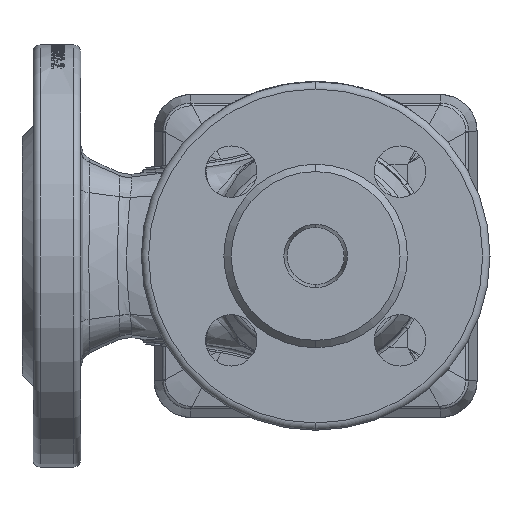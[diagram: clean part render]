
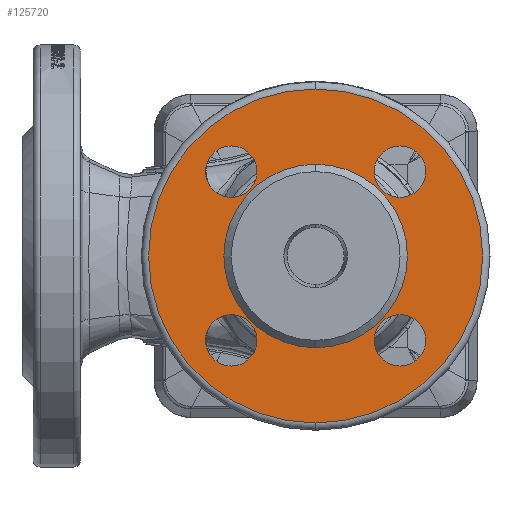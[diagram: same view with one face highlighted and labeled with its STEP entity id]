
A CAD part, front view. The second image highlights one B-rep face of the part: STEP entity #125720.
In plain terms, the highlighted planar face has unit normal (0, -1, 0).
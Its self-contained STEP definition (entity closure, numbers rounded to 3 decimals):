
#562 = ORIENTED_EDGE ( 'NONE', *, *, #67928, .F. ) ;
#5720 = FACE_BOUND ( 'NONE', #49623, .T. ) ;
#6377 = CARTESIAN_POINT ( 'NONE',  ( 0., -88., 0. ) ) ;
#7731 = DIRECTION ( 'NONE',  ( 0., 0., 1. ) ) ;
#8164 = VERTEX_POINT ( 'NONE', #65702 ) ;
#9935 = VERTEX_POINT ( 'NONE', #32512 ) ;
#10148 = DIRECTION ( 'NONE',  ( 0., 1., 0. ) ) ;
#13227 = AXIS2_PLACEMENT_3D ( 'NONE', #6377, #54382, #19938 ) ;
#13236 = FACE_BOUND ( 'NONE', #70846, .T. ) ;
#15306 = CARTESIAN_POINT ( 'NONE',  ( 0., -88., 45.5 ) ) ;
#19018 = EDGE_CURVE ( 'NONE', #79097, #62117, #24489, .T. ) ;
#19938 = DIRECTION ( 'NONE',  ( 0., 0., 1. ) ) ;
#20479 = CARTESIAN_POINT ( 'NONE',  ( 22.981, -88., -22.981 ) ) ;
#20723 = CIRCLE ( 'NONE', #29268, 7. ) ;
#22384 = VERTEX_POINT ( 'NONE', #146252 ) ;
#23696 = CIRCLE ( 'NONE', #87204, 25. ) ;
#24489 = CIRCLE ( 'NONE', #149319, 7. ) ;
#27652 = EDGE_CURVE ( 'NONE', #104122, #113669, #103274, .T. ) ;
#27854 = CARTESIAN_POINT ( 'NONE',  ( 22.981, -88., -22.981 ) ) ;
#29268 = AXIS2_PLACEMENT_3D ( 'NONE', #57278, #93776, #105283 ) ;
#29834 = EDGE_CURVE ( 'NONE', #8164, #51954, #144595, .T. ) ;
#31135 = ORIENTED_EDGE ( 'NONE', *, *, #19018, .F. ) ;
#31748 = DIRECTION ( 'NONE',  ( 0., 1., 0. ) ) ;
#32512 = CARTESIAN_POINT ( 'NONE',  ( -22.981, -88., -29.981 ) ) ;
#36735 = AXIS2_PLACEMENT_3D ( 'NONE', #37743, #121729, #133269 ) ;
#37743 = CARTESIAN_POINT ( 'NONE',  ( -22.981, -88., 22.981 ) ) ;
#39818 = DIRECTION ( 'NONE',  ( 0., -1., 0. ) ) ;
#41561 = EDGE_LOOP ( 'NONE', ( #45663, #76208 ) ) ;
#41999 = CARTESIAN_POINT ( 'NONE',  ( 0., -88., 0. ) ) ;
#43422 = DIRECTION ( 'NONE',  ( 0., -1., 0. ) ) ;
#44207 = DIRECTION ( 'NONE',  ( 0., -1., 0. ) ) ;
#44933 = FACE_BOUND ( 'NONE', #41561, .T. ) ;
#45663 = ORIENTED_EDGE ( 'NONE', *, *, #71716, .F. ) ;
#47316 = EDGE_CURVE ( 'NONE', #51954, #8164, #153011, .T. ) ;
#47494 = CIRCLE ( 'NONE', #134407, 7. ) ;
#49448 = CARTESIAN_POINT ( 'NONE',  ( -22.981, -88., -15.981 ) ) ;
#49623 = EDGE_LOOP ( 'NONE', ( #95669, #140060 ) ) ;
#49994 = ORIENTED_EDGE ( 'NONE', *, *, #89191, .F. ) ;
#51954 = VERTEX_POINT ( 'NONE', #93755 ) ;
#53036 = ORIENTED_EDGE ( 'NONE', *, *, #101964, .T. ) ;
#54382 = DIRECTION ( 'NONE',  ( 0., 1., 0. ) ) ;
#56707 = DIRECTION ( 'NONE',  ( 0., 0., -1. ) ) ;
#57278 = CARTESIAN_POINT ( 'NONE',  ( -22.981, -88., -22.981 ) ) ;
#57576 = EDGE_LOOP ( 'NONE', ( #49994, #80733 ) ) ;
#61739 = FACE_BOUND ( 'NONE', #122216, .T. ) ;
#62117 = VERTEX_POINT ( 'NONE', #86879 ) ;
#62881 = CARTESIAN_POINT ( 'NONE',  ( 22.981, -88., 22.981 ) ) ;
#63392 = CIRCLE ( 'NONE', #109513, 7. ) ;
#64479 = VERTEX_POINT ( 'NONE', #145266 ) ;
#65702 = CARTESIAN_POINT ( 'NONE',  ( 22.981, -88., -29.981 ) ) ;
#67928 = EDGE_CURVE ( 'NONE', #62117, #79097, #102382, .T. ) ;
#70846 = EDGE_LOOP ( 'NONE', ( #31135, #562 ) ) ;
#71176 = PLANE ( 'NONE',  #124523 ) ;
#71716 = EDGE_CURVE ( 'NONE', #9935, #140798, #20723, .T. ) ;
#74807 = CIRCLE ( 'NONE', #13227, 45.5 ) ;
#75158 = VERTEX_POINT ( 'NONE', #15306 ) ;
#76208 = ORIENTED_EDGE ( 'NONE', *, *, #133684, .F. ) ;
#78011 = DIRECTION ( 'NONE',  ( 0., -1., 0. ) ) ;
#78163 = DIRECTION ( 'NONE',  ( 0., 0., -1. ) ) ;
#79097 = VERTEX_POINT ( 'NONE', #114553 ) ;
#79698 = CARTESIAN_POINT ( 'NONE',  ( -22.981, -88., -22.981 ) ) ;
#80733 = ORIENTED_EDGE ( 'NONE', *, *, #131244, .F. ) ;
#81615 = CARTESIAN_POINT ( 'NONE',  ( -25., -88., 0. ) ) ;
#81629 = CARTESIAN_POINT ( 'NONE',  ( 0., -88., 0. ) ) ;
#86006 = FACE_BOUND ( 'NONE', #98021, .T. ) ;
#86336 = CARTESIAN_POINT ( 'NONE',  ( 0., -88., -25. ) ) ;
#86879 = CARTESIAN_POINT ( 'NONE',  ( -22.981, -88., 29.981 ) ) ;
#87204 = AXIS2_PLACEMENT_3D ( 'NONE', #81629, #10148, #116557 ) ;
#87290 = AXIS2_PLACEMENT_3D ( 'NONE', #20479, #43422, #127426 ) ;
#87653 = AXIS2_PLACEMENT_3D ( 'NONE', #62881, #145280, #123346 ) ;
#88401 = ORIENTED_EDGE ( 'NONE', *, *, #29834, .F. ) ;
#89191 = EDGE_CURVE ( 'NONE', #75158, #22384, #146845, .T. ) ;
#89378 = CARTESIAN_POINT ( 'NONE',  ( 0., -88., 25. ) ) ;
#89453 = CARTESIAN_POINT ( 'NONE',  ( 22.981, -88., 22.981 ) ) ;
#91656 = DIRECTION ( 'NONE',  ( 0., -1., 0. ) ) ;
#93755 = CARTESIAN_POINT ( 'NONE',  ( 22.981, -88., -15.981 ) ) ;
#93776 = DIRECTION ( 'NONE',  ( 0., -1., 0. ) ) ;
#95669 = ORIENTED_EDGE ( 'NONE', *, *, #124329, .F. ) ;
#98021 = EDGE_LOOP ( 'NONE', ( #53036, #137773 ) ) ;
#98810 = DIRECTION ( 'NONE',  ( 0., 0., -1. ) ) ;
#100833 = ORIENTED_EDGE ( 'NONE', *, *, #47316, .F. ) ;
#101964 = EDGE_CURVE ( 'NONE', #113669, #104122, #23696, .T. ) ;
#102382 = CIRCLE ( 'NONE', #36735, 7. ) ;
#103274 = CIRCLE ( 'NONE', #113975, 25. ) ;
#104122 = VERTEX_POINT ( 'NONE', #86336 ) ;
#105283 = DIRECTION ( 'NONE',  ( 0., 0., -1. ) ) ;
#109513 = AXIS2_PLACEMENT_3D ( 'NONE', #79698, #44207, #56707 ) ;
#113669 = VERTEX_POINT ( 'NONE', #89378 ) ;
#113975 = AXIS2_PLACEMENT_3D ( 'NONE', #125654, #31748, #7731 ) ;
#114487 = EDGE_CURVE ( 'NONE', #147862, #64479, #140807, .T. ) ;
#114553 = CARTESIAN_POINT ( 'NONE',  ( -22.981, -88., 15.981 ) ) ;
#116557 = DIRECTION ( 'NONE',  ( 0., 0., 1. ) ) ;
#119039 = AXIS2_PLACEMENT_3D ( 'NONE', #41999, #124937, #125452 ) ;
#119115 = DIRECTION ( 'NONE',  ( 0., -1., 0. ) ) ;
#121729 = DIRECTION ( 'NONE',  ( 0., -1., 0. ) ) ;
#122216 = EDGE_LOOP ( 'NONE', ( #88401, #100833 ) ) ;
#123346 = DIRECTION ( 'NONE',  ( 0., 0., -1. ) ) ;
#124329 = EDGE_CURVE ( 'NONE', #64479, #147862, #47494, .T. ) ;
#124523 = AXIS2_PLACEMENT_3D ( 'NONE', #81615, #119115, #131144 ) ;
#124937 = DIRECTION ( 'NONE',  ( 0., 1., 0. ) ) ;
#125091 = AXIS2_PLACEMENT_3D ( 'NONE', #27854, #39818, #98810 ) ;
#125452 = DIRECTION ( 'NONE',  ( 0., 0., 1. ) ) ;
#125654 = CARTESIAN_POINT ( 'NONE',  ( 0., -88., 0. ) ) ;
#125720 = ADVANCED_FACE ( 'NONE', ( #61739, #44933, #5720, #13236, #86006, #136457 ), #71176, .T. ) ;
#127426 = DIRECTION ( 'NONE',  ( 0., 0., -1. ) ) ;
#128617 = DIRECTION ( 'NONE',  ( 0., 0., -1. ) ) ;
#131144 = DIRECTION ( 'NONE',  ( 0., 0., -1. ) ) ;
#131244 = EDGE_CURVE ( 'NONE', #22384, #75158, #74807, .T. ) ;
#133269 = DIRECTION ( 'NONE',  ( 0., 0., -1. ) ) ;
#133684 = EDGE_CURVE ( 'NONE', #140798, #9935, #63392, .T. ) ;
#134407 = AXIS2_PLACEMENT_3D ( 'NONE', #89453, #78011, #128617 ) ;
#136457 = FACE_OUTER_BOUND ( 'NONE', #57576, .T. ) ;
#137773 = ORIENTED_EDGE ( 'NONE', *, *, #27652, .T. ) ;
#138130 = CARTESIAN_POINT ( 'NONE',  ( -22.981, -88., 22.981 ) ) ;
#140060 = ORIENTED_EDGE ( 'NONE', *, *, #114487, .F. ) ;
#140798 = VERTEX_POINT ( 'NONE', #49448 ) ;
#140807 = CIRCLE ( 'NONE', #87653, 7. ) ;
#144595 = CIRCLE ( 'NONE', #87290, 7. ) ;
#145266 = CARTESIAN_POINT ( 'NONE',  ( 22.981, -88., 15.981 ) ) ;
#145280 = DIRECTION ( 'NONE',  ( 0., -1., 0. ) ) ;
#146252 = CARTESIAN_POINT ( 'NONE',  ( 0., -88., -45.5 ) ) ;
#146845 = CIRCLE ( 'NONE', #119039, 45.5 ) ;
#147862 = VERTEX_POINT ( 'NONE', #151014 ) ;
#149319 = AXIS2_PLACEMENT_3D ( 'NONE', #138130, #91656, #78163 ) ;
#151014 = CARTESIAN_POINT ( 'NONE',  ( 22.981, -88., 29.981 ) ) ;
#153011 = CIRCLE ( 'NONE', #125091, 7. ) ;
